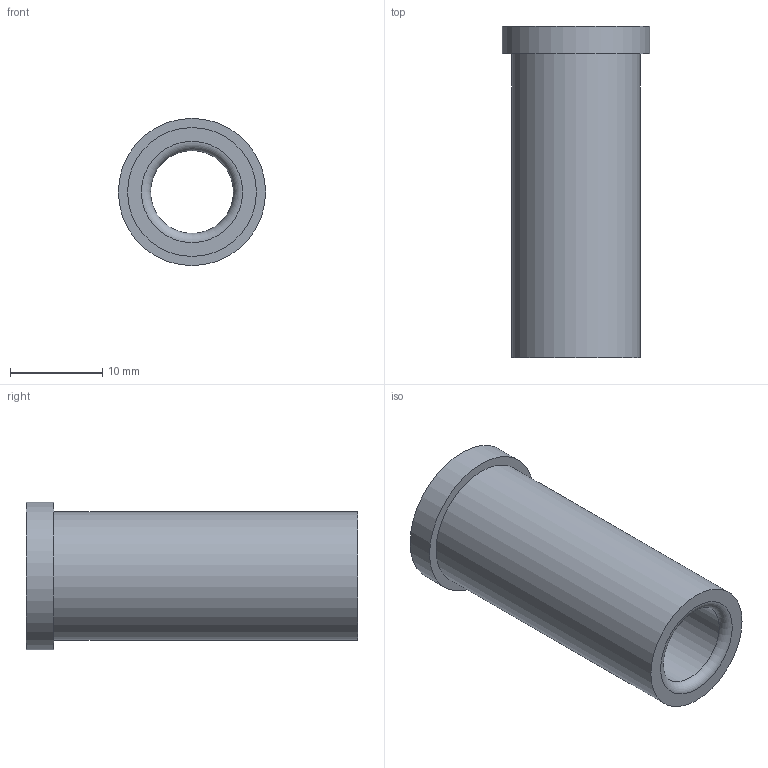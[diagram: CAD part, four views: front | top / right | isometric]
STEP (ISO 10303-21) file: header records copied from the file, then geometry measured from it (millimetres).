
FILE_DESCRIPTION(/* description */ ('STEP AP214'),/* implementation_level */ '2;1');
FILE_NAME(/* name */ '03_12_17834',/* time_stamp */ '2023-06-15T11:35:20+02:00',/* author */ ('License CC BY-ND 4.0'),/* organization */ ('CADENAS'),/* preprocessor_version */ 'ST-DEVELOPER v19.3',/* originating_system */ 'PARTsolutions',/* authorisation */ ' ');
FILE_SCHEMA (('AUTOMOTIVE_DESIGN {1 0 10303 214 3 1 1}'));
Length unit declared in the file: millimetre
Products named in the file (1): VA_Bushing_17834
Bounding box: 16 x 36 x 16 mm (x, y, z)
Volume: 3316.7 mm3; surface area: 2884.4 mm2
Topology: 1 solids, 1 shells, 10 faces, 16 edges, 10 vertices
Faces by surface type: cylinder 4, plane 4, torus 2
Full cylindrical faces by diameter (mm): 9 x1, 9.6 x1, 14 x1, 16 x1
Entity records: 302 total; most frequent: DIRECTION 42, CARTESIAN_POINT 31, AXIS2_PLACEMENT_3D 21, ORIENTED_EDGE 20, EDGE_LOOP 20, FACE_BOUND 20, EDGE_CURVE 10, VERTEX_POINT 10
